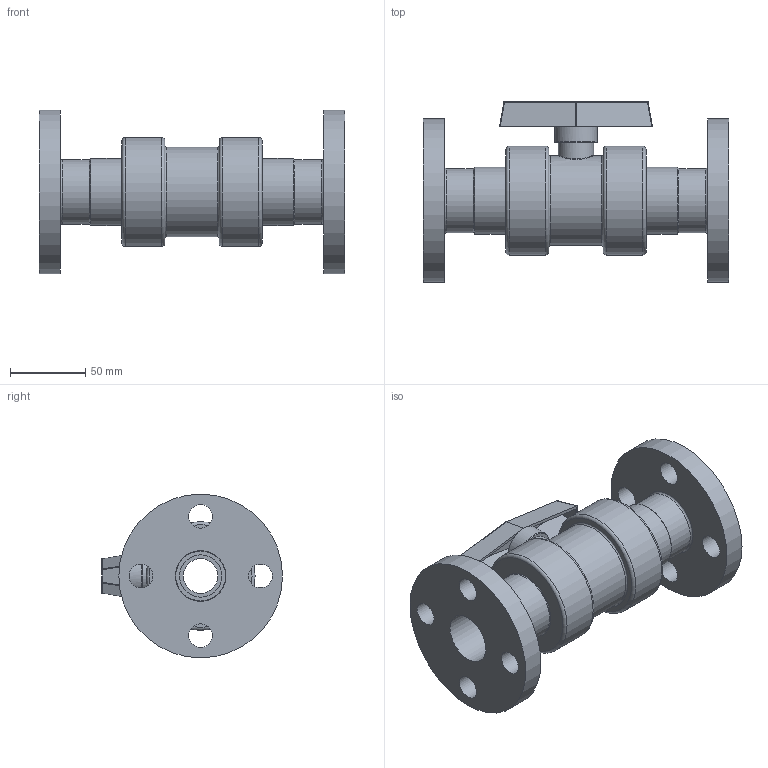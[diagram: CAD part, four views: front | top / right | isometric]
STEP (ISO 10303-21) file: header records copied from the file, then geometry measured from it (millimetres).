
FILE_DESCRIPTION (( 'STEP AP214' ), '1' );
FILE_NAME ('1 Inch -101 Series Ball Valves (Flange X Flange).STEP', '2020-10-27T12:06:44', ( '' ), ( '' ), 'SwSTEP 2.0', 'SolidWorks 2019', '' );
FILE_SCHEMA (( 'AUTOMOTIVE_DESIGN' ));
Length unit declared in the file: inch
Products named in the file (1): 1 Inch -101 Series Ball Valves (Flange X Flange)
Bounding box: 203.2 x 120.25 x 108.74 mm (x, y, z)
Volume: 566407 mm3; surface area: 117479.4 mm2
Topology: 4 solids, 4 shells, 100 faces, 219 edges, 131 vertices
Faces by surface type: cylinder 41, plane 37, torus 11, sphere 6, cone 4, bspline 1
Full cylindrical faces by diameter (mm): 15.748 x8, 18.389 x1, 23.012 x1, 23.469 x2, 28.143 x2, 28.469 x1, 33.655 x2, 42.577 x2, 44.577 x2, 59.531 x1, 72.231 x2, 108.744 x2
Entity records: 3093 total; most frequent: CARTESIAN_POINT 992, DIRECTION 442, ORIENTED_EDGE 326, AXIS2_PLACEMENT_3D 192, EDGE_LOOP 178, EDGE_CURVE 163, FACE_OUTER_BOUND 138, VERTEX_POINT 123
